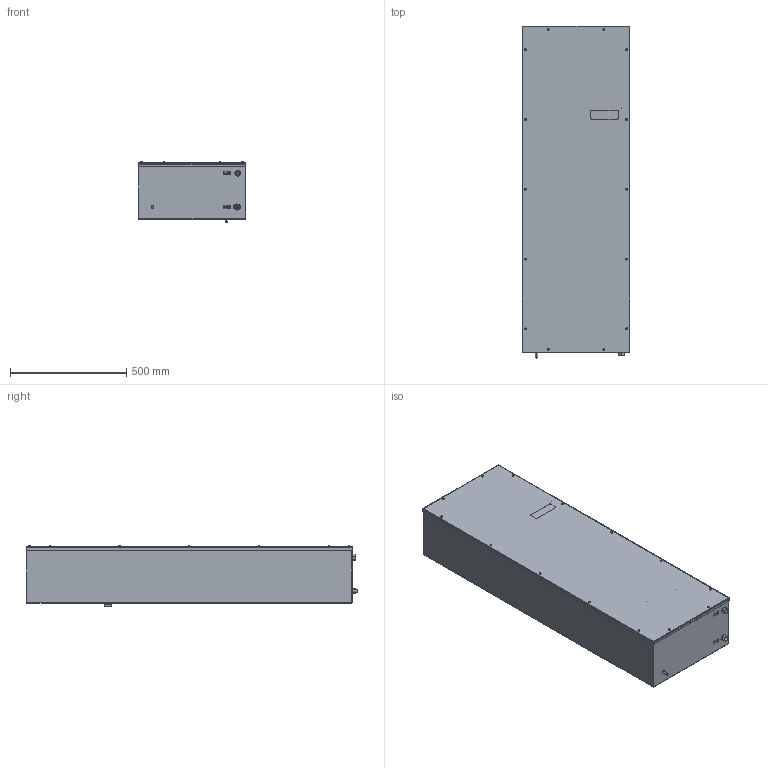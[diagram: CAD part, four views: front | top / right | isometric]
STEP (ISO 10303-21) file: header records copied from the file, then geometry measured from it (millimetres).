
FILE_DESCRIPTION (( 'STEP AP214' ), '1' );
FILE_NAME ('PWS 7502_12055010028_Step214.STEP', '2007-08-31T12:48:30', ( 'Pfannenberg' ), ( 'Pfannenberg GmbH' ), 'SwSTEP 2.0', 'SolidWorks 2007', '' );
FILE_SCHEMA (( 'AUTOMOTIVE_DESIGN' ));
Length unit declared in the file: millimetre
Products named in the file (1): PWS 7502_12055010028_Step214
Bounding box: 464 x 1427 x 259.55 mm (x, y, z)
Volume: 2538617.4 mm3; surface area: 4906628.2 mm2
Topology: 47 solids, 47 shells, 1578 faces, 4056 edges, 2595 vertices
Faces by surface type: plane 1010, cylinder 346, bspline 81, cone 69, sphere 64, torus 8
Entity records: 67986 total; most frequent: CARTESIAN_POINT 12231, ORIENTED_EDGE 7948, DIRECTION 7527, EDGE_CURVE 3974, VECTOR 2653, LINE 2653, VERTEX_POINT 2565, AXIS2_PLACEMENT_3D 2437
